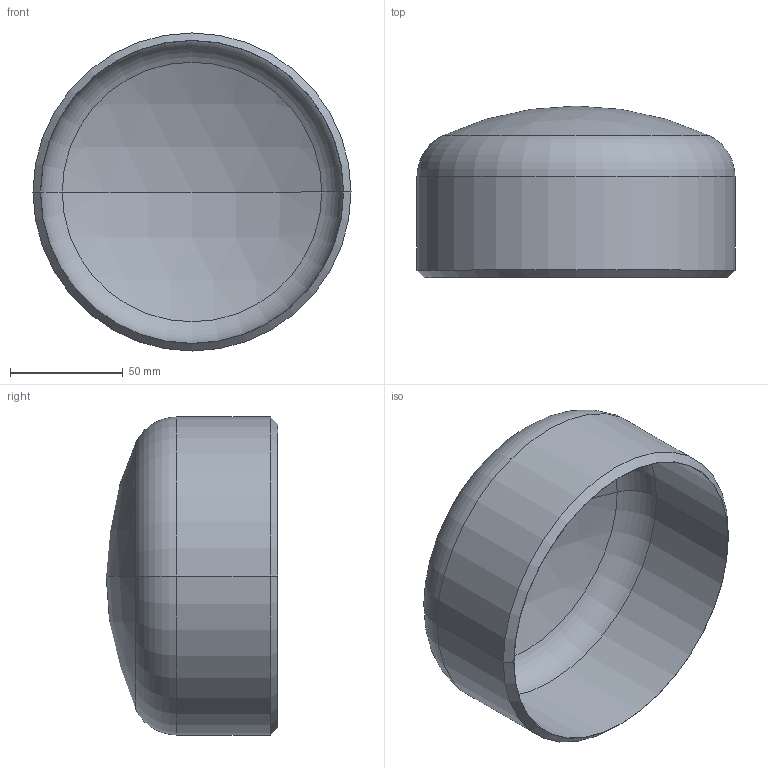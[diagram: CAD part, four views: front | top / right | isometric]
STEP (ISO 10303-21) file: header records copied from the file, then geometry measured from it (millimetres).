
FILE_DESCRIPTION (( 'STEP AP203' ), '1' );
FILE_NAME ('3D_R275_5x10S_173455210.STEP', '2024-08-23T12:19:15', ( '' ), ( '' ), 'SwSTEP 2.0', 'SolidWorks 2024', '' );
FILE_SCHEMA (( 'CONFIG_CONTROL_DESIGN' ));
Length unit declared in the file: millimetre
Products named in the file (1): 3D_R275_5x10S_173455210
Bounding box: 141.3 x 76.2 x 141.3 mm (x, y, z)
Volume: 131047.5 mm3; surface area: 79111.3 mm2
Topology: 1 solids, 1 shells, 15 faces, 28 edges, 16 vertices
Faces by surface type: sphere 4, torus 4, cylinder 4, cone 2, plane 1
Entity records: 457 total; most frequent: DIRECTION 82, CARTESIAN_POINT 60, ORIENTED_EDGE 56, AXIS2_PLACEMENT_3D 38, EDGE_CURVE 28, CIRCLE 22, EDGE_LOOP 16, VERTEX_POINT 16
